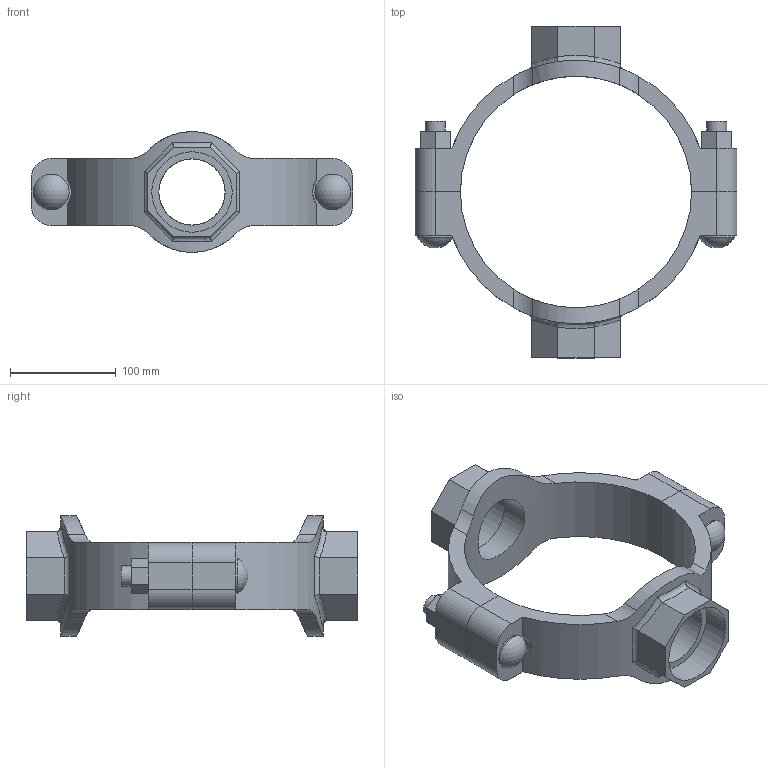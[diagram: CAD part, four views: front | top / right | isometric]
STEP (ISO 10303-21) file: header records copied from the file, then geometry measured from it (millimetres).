
FILE_DESCRIPTION(/* description */ ('VIC MECH-T BRANCH OUTLET CROSS STYLE 920N (THD)','CAx-IF Rec.Pracs.---Representation and Presentation of Product Manufacturing Information (PMI)---4.0---2014-10-13'),/* implementation_level */ '2;1');
FILE_NAME(/* name */ 'C:\Users\Vjadhav\AppData\Roaming\Autodesk\ApplicationPlugins\Back Up\Victaulic_IPS_Mechanical-Cross Outlet_Style 920N (FPT)\Victaulic_IPS_Mechanical-Cross Outlet_08.0x02.5x02.5 (76.1) (200x65x65).stp',/* time_stamp */ '2020-08-06T19:00:58+06:00',/* author */ ('Vjadhav'),/* organization */ ('Victaulic'),/* preprocessor_version */ 'ST-DEVELOPER v17.2',/* originating_system */ 'Autodesk Inventor 2019',/* authorisation */ '');
FILE_SCHEMA (('AP242_MANAGED_MODEL_BASED_3D_ENGINEERING_MIM_LF { 1 0 10303 442 1 1 4 }'));
Length unit declared in the file: inch
Products named in the file (3): 920NT-08.0x02.5x02.5 (76.1); 920T-08.0x02.5; 920T-08.0x02.5 (76.1)
Assembly tree (2 placements, depth 2):
  920NT-08.0x02.5x02.5 (76.1)
    920T-08.0x02.5
    920T-08.0x02.5 (76.1)
Bounding box: 304.8 x 314.45 x 114.3 mm (x, y, z)
Volume: 1141322.8 mm3; surface area: 214175.4 mm2
Topology: 2 solids, 2 shells, 132 faces, 350 edges, 236 vertices
Faces by surface type: plane 68, cylinder 50, bspline 8, torus 4, sphere 2
Full cylindrical faces by diameter (mm): 19.05 x4, 33.843 x2, 62.738 x2, 73.025 x1, 76.2 x1
Entity records: 5249 total; most frequent: CARTESIAN_POINT 1736, ORIENTED_EDGE 700, DIRECTION 648, EDGE_CURVE 350, VERTEX_POINT 236, AXIS2_PLACEMENT_3D 231, LINE 186, VECTOR 186
